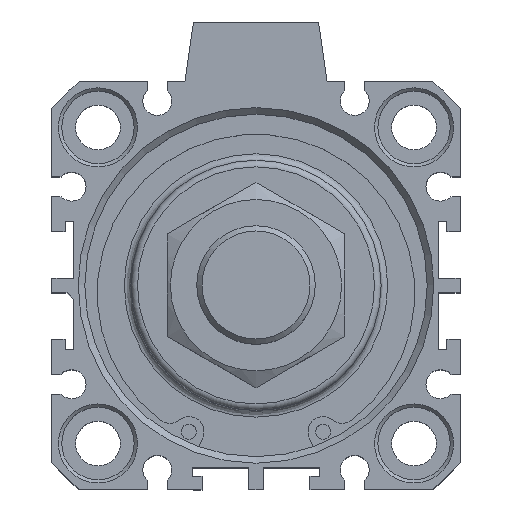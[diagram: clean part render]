
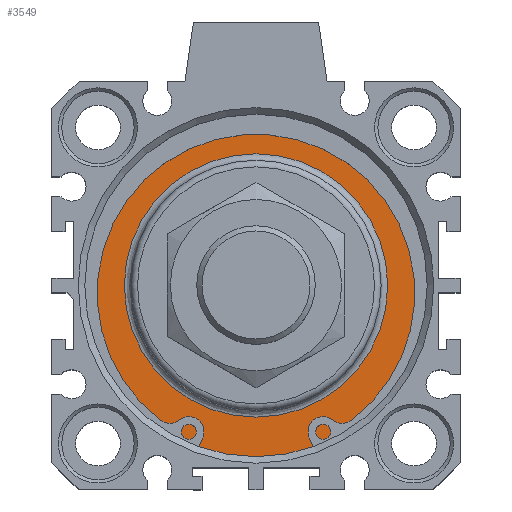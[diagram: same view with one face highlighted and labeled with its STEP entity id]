
A CAD part, top view. The second image highlights one B-rep face of the part: STEP entity #3549.
In plain terms, the highlighted planar face has unit normal (0, 0, 1).
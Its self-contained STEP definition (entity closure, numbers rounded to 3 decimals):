
#3498=CARTESIAN_POINT('',(-0.12,20.837,34.3));
#3499=VERTEX_POINT('',#3498);
#3500=CARTESIAN_POINT('',(-0.12,0.837,34.3));
#3501=DIRECTION('',(0.0,0.0,1.0));
#3502=DIRECTION('',(0.0,-1.0,0.0));
#3503=AXIS2_PLACEMENT_3D('',#3500,#3501,#3502);
#3504=CIRCLE('',#3503,20.0);
#3505=EDGE_CURVE('',#3499,#3499,#3504,.T.);
#3530=CARTESIAN_POINT('',(-0.12,23.337,34.3));
#3531=DIRECTION('',(0.0,0.0,1.0));
#3532=DIRECTION('',(1.0,0.0,0.0));
#3533=AXIS2_PLACEMENT_3D('',#3530,#3531,#3532);
#3534=PLANE('',#3533);
#3535=CARTESIAN_POINT('',(-0.12,26.837,34.3));
#3536=VERTEX_POINT('',#3535);
#3537=CARTESIAN_POINT('',(-0.12,0.837,34.3));
#3538=DIRECTION('',(0.0,0.0,-1.0));
#3539=DIRECTION('',(0.0,1.0,0.0));
#3540=AXIS2_PLACEMENT_3D('',#3537,#3538,#3539);
#3541=CIRCLE('',#3540,26.);
#3542=EDGE_CURVE('',#3536,#3536,#3541,.T.);
#3543=ORIENTED_EDGE('',*,*,#3542,.F.);
#3544=EDGE_LOOP('',(#3543));
#3545=FACE_OUTER_BOUND('',#3544,.T.);
#3546=ORIENTED_EDGE('',*,*,#3505,.F.);
#3547=EDGE_LOOP('',(#3546));
#3548=FACE_BOUND('',#3547,.T.);
#3549=ADVANCED_FACE('',(#3545,#3548),#3534,.T.);
